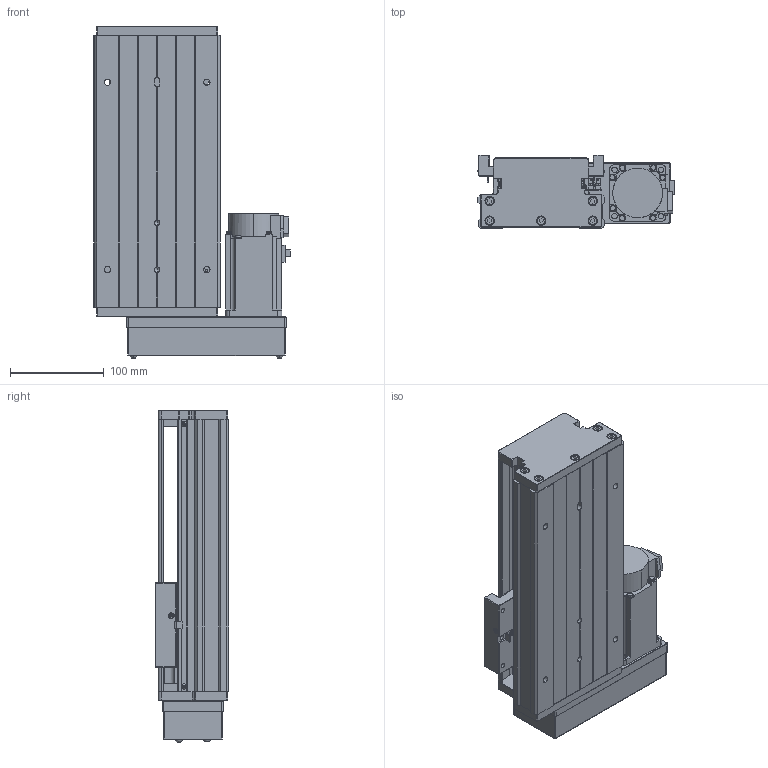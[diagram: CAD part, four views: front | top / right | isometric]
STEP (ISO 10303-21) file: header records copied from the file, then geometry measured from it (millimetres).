
FILE_DESCRIPTION (( 'STEP AP203' ), '1' );
FILE_NAME ('KTH130-150-BR-M40-C4.step', '2023-06-30T04:10:37', ( '微软用户' ), ( '微软中国' ), 'SwSTEP 2.0', 'SolidWorks 2020', '' );
FILE_SCHEMA (( 'CONFIG_CONTROL_DESIGN' ));
Length unit declared in the file: millimetre
Products named in the file (19): CTHA60-016; GTH14-015-2_CTHA86-015-2; KTH130-005; GBT 70.1-M3℅5; GTH14-033; GB1155-6X6; GBT77-2000 M3×3; KTH130-150-BR-M40-C4; GBT70.1 M5℅16; す晦芛蹟隊 M3℅5; GBT 70.2-M3¡Á5_M3¡Á6; GBT 70.3-M3℅8; GTH14-001_150; CTHA60-017; HG-KN43J-S100; KTH130-002_KTH130-002; EE_SX911P_R; GBT 70.2-M4¡Á35_M4¡Á35; KTH130-004
Assembly tree (53 placements, depth 2):
  KTH130-150-BR-M40-C4
    GTH14-001_150
    KTH130-002_KTH130-002
    KTH130-004
    KTH130-005
    GB1155-6X6  x2
    GBT70.1 M5℅16  x10
    GBT 70.2-M3¡Á5_M3¡Á6  x4
    CTHA60-017  x3
    EE_SX911P_R  x3
    CTHA60-016  x2
    GBT 70.1-M3℅5  x6
    GBT77-2000 M3×3  x6
    す晦芛蹟隊 M3℅5  x2
    GBT 70.3-M3℅8  x4
    HG-KN43J-S100
    GBT 70.2-M4¡Á35_M4¡Á35  x4
    GTH14-015-2_CTHA86-015-2
    GTH14-033
Bounding box: 209.3 x 78 x 354.2 mm (x, y, z)
Volume: 2342017.4 mm3; surface area: 439835.3 mm2
Topology: 56 solids, 56 shells, 2193 faces, 5294 edges, 3294 vertices
Faces by surface type: plane 1191, cylinder 588, cone 290, torus 100, sphere 24
Entity records: 39634 total; most frequent: CARTESIAN_POINT 8484, DIRECTION 5859, ORIENTED_EDGE 5788, EDGE_CURVE 2894, AXIS2_PLACEMENT_3D 2000, VECTOR 1859, LINE 1859, VERTEX_POINT 1847
